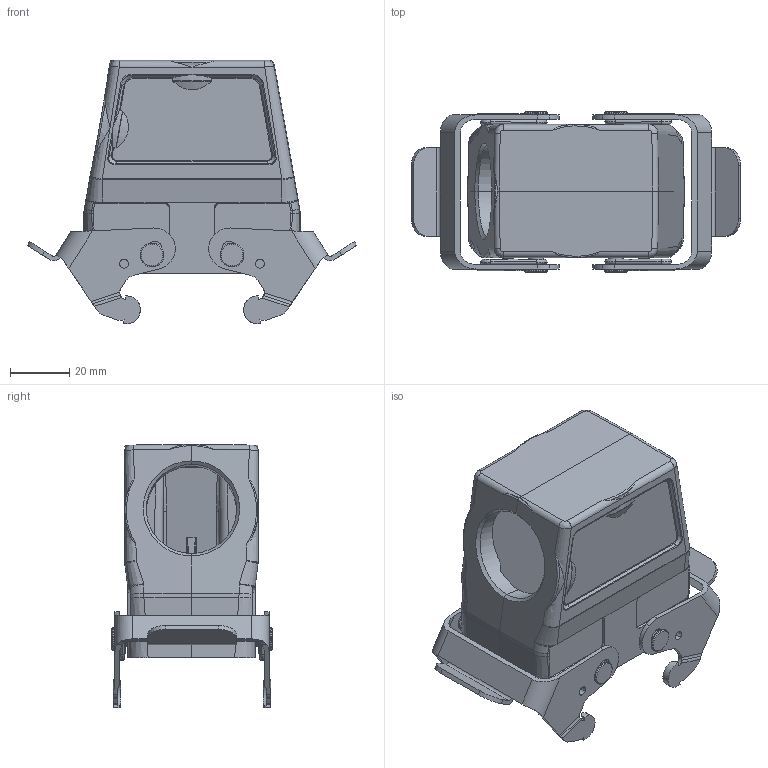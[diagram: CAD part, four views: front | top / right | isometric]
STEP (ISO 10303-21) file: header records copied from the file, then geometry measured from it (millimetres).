
FILE_DESCRIPTION (( 'STEP AP203' ), '1' );
FILE_NAME ('H10-TSBH-M25&32&40.STEP', '2020-11-21T03:16:06', ( '' ), ( '' ), 'SwSTEP 2.0', 'SolidWorks 2016', '' );
FILE_SCHEMA (( 'CONFIG_CONTROL_DESIGN' ));
Length unit declared in the file: millimetre
Products named in the file (8): JINSHUSHUANGKOU; MAODING; TANHUANG; TANHUANG_1; 24BCAIXINSHUANGKOU; hb-010_hoods_high_construction; MAODING_1; H10-TSBH-M25&32&40
Assembly tree (8 placements, depth 3):
  H10-TSBH-M25&32&40
    JINSHUSHUANGKOU  x2
      24BCAIXINSHUANGKOU
      MAODING
      MAODING_1
      TANHUANG
      TANHUANG_1
    hb-010_hoods_high_construction
Bounding box: 111.15 x 54 x 88.89 mm (x, y, z)
Volume: 7968.9 mm3; surface area: 44835 mm2
Topology: 10 solids, 11 shells, 762 faces, 1917 edges, 1192 vertices
Faces by surface type: cylinder 296, bspline 206, plane 197, cone 63
Entity records: 26008 total; most frequent: CARTESIAN_POINT 12986, ORIENTED_EDGE 2882, DIRECTION 2086, EDGE_CURVE 1444, VERTEX_POINT 888, AXIS2_PLACEMENT_3D 766, EDGE_LOOP 610, ADVANCED_FACE 583
